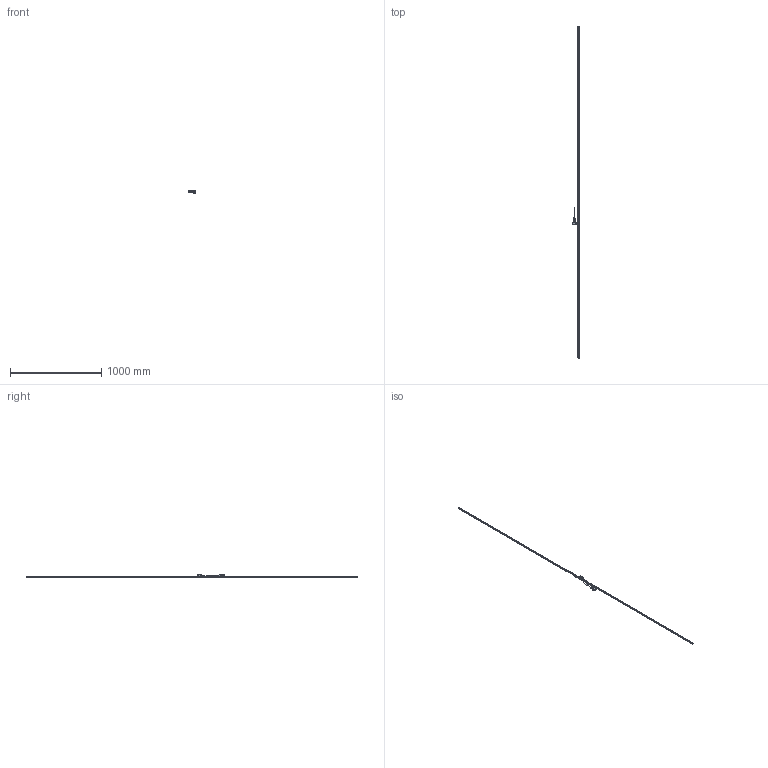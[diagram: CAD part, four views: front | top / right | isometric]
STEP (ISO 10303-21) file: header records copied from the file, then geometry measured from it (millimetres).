
FILE_DESCRIPTION(('Creo Elements/Direct Modeling STEP Export'),'2;1');
FILE_NAME('ST1300-3600F_G.stp','2022-08-16T11:53:27',(''),(''),'Creo Elements/Direct Modeling STEP processor for AP214 (Solid Model)','Creo Elements/Direct Modeling 18.1I 13-Aug-2016 (C) Parametric Technology GmbH','');
FILE_SCHEMA(('AUTOMOTIVE_DESIGN { 1 0 10303 214 1 1 1 1 }'));
Length unit declared in the file: millimetre
Products named in the file (4): Scale_3600; Connector; Detector_Head; ST1300-3600F_G
Assembly tree (3 placements, depth 2):
  ST1300-3600F_G
    Detector_Head
    Connector
    Scale_3600
Bounding box: 83 x 3640 x 30.1 mm (x, y, z)
Volume: 320784 mm3; surface area: 184694.1 mm2
Topology: 2 solids, 6 shells, 4107 faces, 11150 edges, 7221 vertices
Faces by surface type: plane 1850, cylinder 1663, extrusion 454, cone 87, torus 26, bspline 23, revolution 4
Entity records: 134524 total; most frequent: CARTESIAN_POINT 32390, ORIENTED_EDGE 22284, DIRECTION 19571, EDGE_CURVE 11138, VERTEX_POINT 7221, VECTOR 6685, AXIS2_PLACEMENT_3D 6440, LINE 6291
